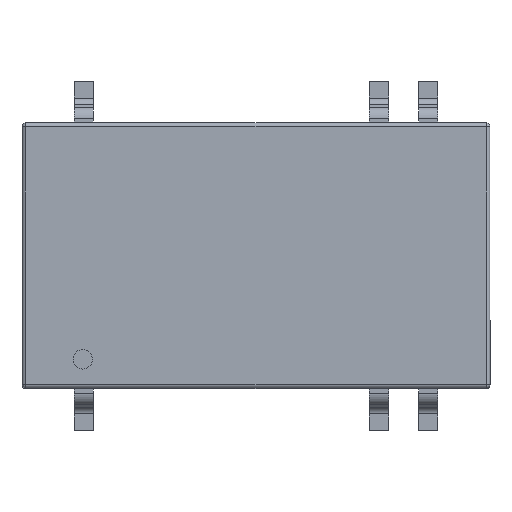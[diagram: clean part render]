
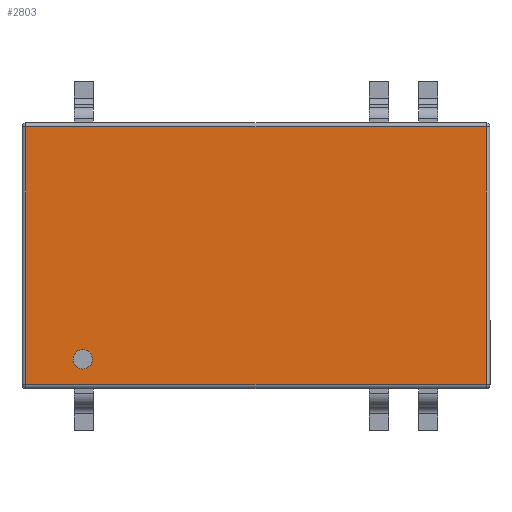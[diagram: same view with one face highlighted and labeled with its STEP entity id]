
A CAD part, top view. The second image highlights one B-rep face of the part: STEP entity #2803.
In plain terms, the highlighted planar face has unit normal (0, 0, 1) as drawn and (0, 0, -1) by its records, which use the part's own axes.
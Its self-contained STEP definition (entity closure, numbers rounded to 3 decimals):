
#303=LINE('',#4590,#607);
#305=LINE('',#4593,#609);
#311=LINE('',#4608,#615);
#313=LINE('',#4611,#617);
#607=VECTOR('',#3773,23.75);
#609=VECTOR('',#3777,13.3);
#615=VECTOR('',#3793,13.3);
#617=VECTOR('',#3797,23.75);
#739=PLANE('',#3048);
#767=FACE_BOUND('',#1091,.T.);
#915=FACE_OUTER_BOUND('',#1090,.T.);
#1090=EDGE_LOOP('',(#2580,#2581,#2582,#2583));
#1091=EDGE_LOOP('',(#2584));
#1168=CIRCLE('',#3015,0.5);
#1414=VERTEX_POINT('',#4558);
#1416=VERTEX_POINT('',#4563);
#1420=VERTEX_POINT('',#4572);
#1422=VERTEX_POINT('',#4577);
#1426=VERTEX_POINT('',#4586);
#1784=EDGE_CURVE('',#1414,#1414,#1168,.T.);
#1797=EDGE_CURVE('',#1422,#1426,#303,.T.);
#1799=EDGE_CURVE('',#1426,#1420,#305,.T.);
#1807=EDGE_CURVE('',#1416,#1422,#311,.T.);
#1809=EDGE_CURVE('',#1420,#1416,#313,.T.);
#2580=ORIENTED_EDGE('',*,*,#1797,.F.);
#2581=ORIENTED_EDGE('',*,*,#1807,.F.);
#2582=ORIENTED_EDGE('',*,*,#1809,.F.);
#2583=ORIENTED_EDGE('',*,*,#1799,.F.);
#2584=ORIENTED_EDGE('',*,*,#1784,.T.);
#2803=ADVANCED_FACE('',(#915,#767),#739,.F.);
#3015=AXIS2_PLACEMENT_3D('',#4559,#3735,#3736);
#3048=AXIS2_PLACEMENT_3D('',#4640,#3825,#3826);
#3735=DIRECTION('center_axis',(0.,0.,1.));
#3736=DIRECTION('ref_axis',(1.,0.,0.));
#3773=DIRECTION('',(1.,0.,0.));
#3777=DIRECTION('',(0.,1.,0.));
#3793=DIRECTION('',(0.,-1.,0.));
#3797=DIRECTION('',(-1.,0.,0.));
#3825=DIRECTION('center_axis',(0.,0.,1.));
#3826=DIRECTION('ref_axis',(1.,0.,0.));
#4558=CARTESIAN_POINT('',(8.44,-5.35,0.));
#4559=CARTESIAN_POINT('Origin',(8.94,-5.35,0.));
#4563=CARTESIAN_POINT('',(-11.875,6.65,0.));
#4572=CARTESIAN_POINT('',(11.875,6.65,0.));
#4577=CARTESIAN_POINT('',(-11.875,-6.65,0.));
#4586=CARTESIAN_POINT('',(11.875,-6.65,0.));
#4590=CARTESIAN_POINT('',(6.038,-6.65,0.));
#4593=CARTESIAN_POINT('',(11.875,3.425,0.));
#4608=CARTESIAN_POINT('',(-11.875,-3.425,0.));
#4611=CARTESIAN_POINT('',(-6.038,6.65,0.));
#4640=CARTESIAN_POINT('Origin',(0.,0.,0.));
